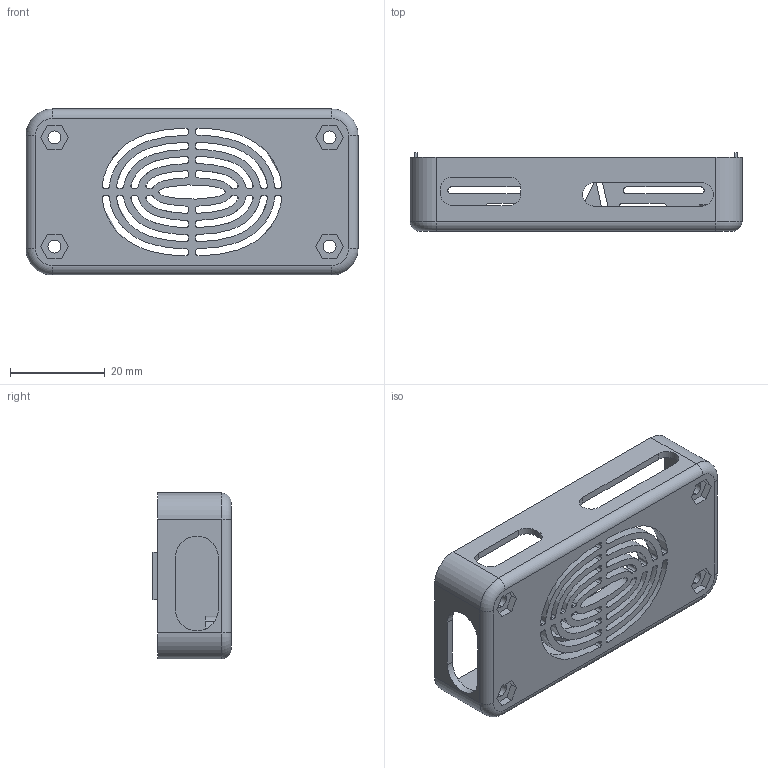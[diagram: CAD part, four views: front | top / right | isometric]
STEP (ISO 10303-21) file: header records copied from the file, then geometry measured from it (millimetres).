
FILE_DESCRIPTION((''),'2;1');
FILE_NAME('OBUDOWA_DOL','2020-02-14T08:44:11',('arogucki'),(''),'CREO PARAMETRIC BY PTC INC, 2019224','CREO PARAMETRIC BY PTC INC, 2019224','');
FILE_SCHEMA(('CONFIG_CONTROL_DESIGN'));
Length unit declared in the file: millimetre
Products named in the file (1): OBUDOWA_DOL
Bounding box: 70 x 16.5 x 35 mm (x, y, z)
Volume: 7932.8 mm3; surface area: 10837.3 mm2
Topology: 1 solids, 1 shells, 302 faces, 868 edges, 576 vertices
Faces by surface type: plane 128, cylinder 124, extrusion 46, torus 4
Entity records: 11886 total; most frequent: CARTESIAN_POINT 3722, ORIENTED_EDGE 1736, DIRECTION 1596, EDGE_CURVE 868, VERTEX_POINT 576, VECTOR 564, LINE 518, AXIS2_PLACEMENT_3D 516
